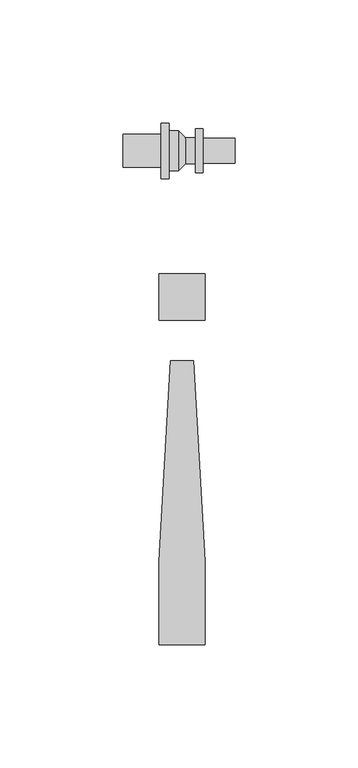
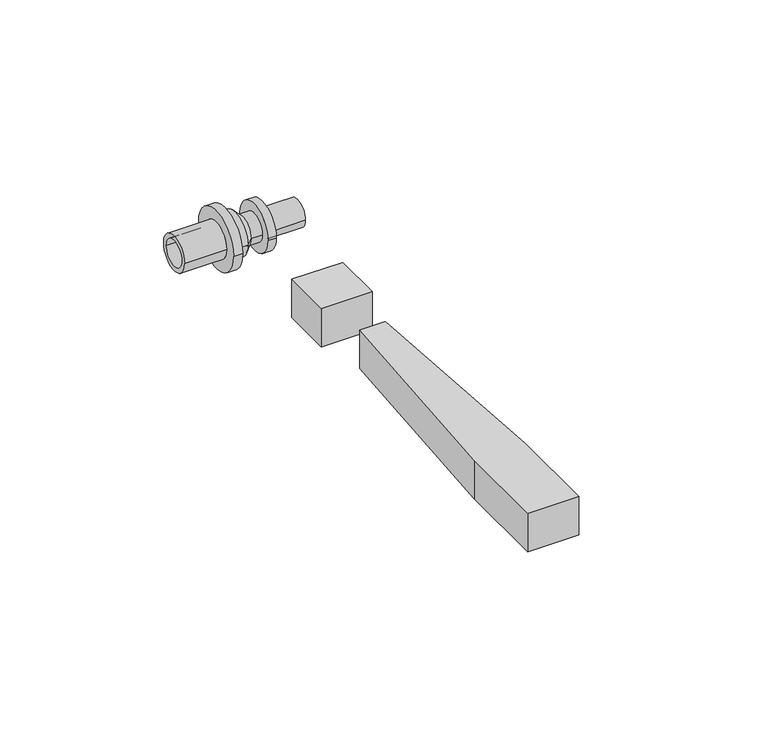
"""IFC4 building model written with IfcOpenShell, lengths in millimetres: pipe fitting geometry, RAUTITAN_Transition_LX : RTI LX Tr DN."""

import ifcopenshell
import ifcopenshell.guid

model = None  # the IFC model being written
_history = None  # IfcOwnerHistory: only IFC2X3 demands one
_inside = {}  # id of a spatial element -> (the spatial element, [elements in it])
_under = {}  # id of a project, library or spatial element -> (it, [spatial elements below it])
_declared = {}  # id of a project -> (the project, [libraries it declares])
_typed = {}  # id of a type object -> (the type object, [elements of that type])
_made_of = {}  # id of a material, layer set ... -> (it, [elements and type objects made of it])


def new_model(schema):
    """Start an empty IFC model of exactly this schema.

    Asked for "IFC4X3", IfcOpenShell would pick the latest addendum, in which some entities
    have other attributes; the version numbers below select the first issue.
    IFC2X3 requires an IfcOwnerHistory on every rooted entity: one is made here for all.
    """
    global model, _history
    if schema == "IFC4X3":
        model = ifcopenshell.file(schema_version=(4, 3, 0, 0))
    else:
        model = ifcopenshell.file(schema=schema)
    _inside.clear()
    _under.clear()
    _declared.clear()
    _typed.clear()
    _made_of.clear()
    _history = None
    if model.schema == "IFC2X3":
        org = make("IfcOrganization", Name="unknown")
        user = make(
            "IfcPersonAndOrganization",
            ThePerson=make("IfcPerson", FamilyName="unknown"),
            TheOrganization=org,
        )
        app = make(
            "IfcApplication",
            ApplicationDeveloper=org,
            Version="unknown",
            ApplicationFullName="unknown",
            ApplicationIdentifier="unknown",
        )
        _history = make(
            "IfcOwnerHistory",
            OwningUser=user,
            OwningApplication=app,
            ChangeAction="ADDED",
            CreationDate=0,
        )
    return model


def make(cls, **values):
    """One entity of the class cls with the attributes given. An attribute that is None is left unset."""
    return model.create_entity(
        cls, **{name: value for name, value in values.items() if value is not None}
    )


def rooted(cls, **values):
    """An entity with a GlobalId (a new one), such as an element, a storey or a relation."""
    return make(cls, GlobalId=ifcopenshell.guid.new(), OwnerHistory=_history, **values)


def si_unit(unit_type, name, prefix=None):
    """IfcSIUnit, for example si_unit("LENGTHUNIT", "METRE", prefix="MILLI")."""
    return make("IfcSIUnit", UnitType=unit_type, Prefix=prefix, Name=name)


def assignment(units):
    """IfcUnitAssignment: the units of a project."""
    return None if units is None else make("IfcUnitAssignment", Units=units)


def point(xyz):
    """IfcCartesianPoint."""
    return None if xyz is None else make("IfcCartesianPoint", Coordinates=xyz)


def direction(xyz):
    """IfcDirection."""
    return None if xyz is None else make("IfcDirection", DirectionRatios=xyz)


def frame(location, z_axis=None, x_axis=None):
    """IfcAxis2Placement3D, a coordinate frame: its origin and axes. An axis left out is left unset."""
    return make(
        "IfcAxis2Placement3D",
        Location=point(location),
        Axis=direction(z_axis),
        RefDirection=direction(x_axis),
    )


def origin():
    """The frame at (0, 0, 0) with its axes left unset."""
    return frame((0.0, 0.0, 0.0))


def origin_with_axes():
    """The frame at (0, 0, 0) with the z axis (0, 0, 1) and the x axis (1, 0, 0) written out."""
    return frame((0.0, 0.0, 0.0), z_axis=(0.0, 0.0, 1.0), x_axis=(1.0, 0.0, 0.0))


def place(relative_to, where):
    """IfcLocalPlacement: puts the frame where relative to a parent placement (None: the world)."""
    return make(
        "IfcLocalPlacement", PlacementRelTo=relative_to, RelativePlacement=where
    )


def context(
    kind, dimensions, precision=None, world=None, true_north=None, identifier=None
):
    """IfcGeometricRepresentationContext, for example the 3D "Model" context."""
    return make(
        "IfcGeometricRepresentationContext",
        ContextIdentifier=identifier,
        ContextType=kind,
        CoordinateSpaceDimension=dimensions,
        Precision=precision,
        WorldCoordinateSystem=world,
        TrueNorth=true_north,
    )


def project(units=None, contexts=None):
    """IfcProject with its units and contexts."""
    return rooted(
        "IfcProject",
        Name="project",
        RepresentationContexts=contexts,
        UnitsInContext=assignment(units),
    )


def spatial(cls, under=None, at=None, **own):
    """A site, building, storey or space (cls), placed at a placement, below another one or the project."""
    s = rooted(cls, ObjectPlacement=at, **own)
    if under is not None:
        _under.setdefault(under.id(), (under, []))[1].append(s)
    return s


def polyline(points):
    """IfcPolyline through the points."""
    return make("IfcPolyline", Points=[point(p) for p in points])


def circle_curve(where, radius):
    """IfcCircle in the frame where."""
    return make("IfcCircle", Position=where, Radius=radius)


def outline(outer, holes=None, kind="AREA"):
    """IfcArbitraryClosedProfileDef: a profile drawn as a closed curve; with holes, ...WithVoids."""
    if holes is None:
        return make("IfcArbitraryClosedProfileDef", ProfileType=kind, OuterCurve=outer)
    return make(
        "IfcArbitraryProfileDefWithVoids",
        ProfileType=kind,
        OuterCurve=outer,
        InnerCurves=holes,
    )


def extrude(swept, where, along, depth):
    """IfcExtrudedAreaSolid: the profile swept, set in the frame where, extruded along a direction by depth."""
    return make(
        "IfcExtrudedAreaSolid",
        SweptArea=swept,
        Position=where,
        ExtrudedDirection=direction(along),
        Depth=depth,
    )


def shape(context_of_items, identifier, shape_type, items):
    """IfcShapeRepresentation: the items that make up one representation, for example the "Body"."""
    return make(
        "IfcShapeRepresentation",
        ContextOfItems=context_of_items,
        RepresentationIdentifier=identifier,
        RepresentationType=shape_type,
        Items=items,
    )


def source(mapping_origin, context_of_items, identifier, shape_type, items):
    """IfcRepresentationMap: a shape defined once, which mapped items show again and again."""
    return make(
        "IfcRepresentationMap",
        MappingOrigin=mapping_origin,
        MappedRepresentation=shape(context_of_items, identifier, shape_type, items),
    )


def transform(
    local_origin,
    x_axis=None,
    y_axis=None,
    z_axis=None,
    scale=None,
    scale2=None,
    scale3=None,
    uniform=True,
):
    """IfcCartesianTransformationOperator3D, or its non-uniform kind. x_axis, y_axis, z_axis: its Axis1, 2, 3."""
    if uniform:
        return make(
            "IfcCartesianTransformationOperator3D",
            Axis1=direction(x_axis),
            Axis2=direction(y_axis),
            LocalOrigin=point(local_origin),
            Scale=scale,
            Axis3=direction(z_axis),
        )
    return make(
        "IfcCartesianTransformationOperator3DnonUniform",
        Axis1=direction(x_axis),
        Axis2=direction(y_axis),
        LocalOrigin=point(local_origin),
        Scale=scale,
        Axis3=direction(z_axis),
        Scale2=scale2,
        Scale3=scale3,
    )


def mapped(mapping_source, mapping_target):
    """IfcMappedItem: shows the shape of a source again, moved by a transform."""
    return make(
        "IfcMappedItem", MappingSource=mapping_source, MappingTarget=mapping_target
    )


def made_of(thing, what):
    """Note that an element or type object is made of a material, layer set ...; save() writes the relation."""
    if what is not None:
        _made_of.setdefault(what.id(), (what, []))[1].append(thing)
    return thing


def element(
    cls,
    number,
    at=None,
    inside=None,
    cuts=None,
    type_object=None,
    material=None,
    context=None,
    identifier="Body",
    shape_type=None,
    held_by="IfcProductDefinitionShape",
    body=None,
    shapes=None,
    **own,
):
    """One element of the class cls, such as IfcWall. Its Tag is "e" and its number.

    at: its placement. inside: the storey or other place that contains it. cuts: it is an
    opening in that element (IfcRelVoidsElement). A single representation is given by context,
    identifier, shape_type and body (its items); several are given by shapes. held_by: the class
    of the entity that holds the representations. save() writes the other relations.
    """
    e = rooted(cls, Tag="e%d" % number, ObjectPlacement=at, **own)
    if body is not None:
        shapes = [shape(context, identifier, shape_type, body)]
    if shapes is not None:
        e.Representation = make(held_by, Representations=shapes)
    if inside is not None:
        _inside.setdefault(inside.id(), (inside, []))[1].append(e)
    if cuts is not None:
        rooted(
            "IfcRelVoidsElement", RelatingBuildingElement=cuts, RelatedOpeningElement=e
        )
    if type_object is not None:
        _typed.setdefault(type_object.id(), (type_object, []))[1].append(e)
    return made_of(e, material)


def aggregate(whole, parts):
    """IfcRelAggregates: a whole, such as a stair, and the parts it consists of."""
    return rooted("IfcRelAggregates", RelatingObject=whole, RelatedObjects=parts)


def save(model, path):
    """Write the relations noted so far, then the file.

    IfcRelAggregates (storeys below a building ...), IfcRelContainedInSpatialStructure (elements
    in a storey), IfcRelDefinesByType, IfcRelAssociatesMaterial and IfcRelDeclares: one each for
    every whole, place, type object, material and project.
    """
    for whole, parts in _under.values():
        aggregate(whole, parts)
    for where, things in _inside.values():
        rooted(
            "IfcRelContainedInSpatialStructure",
            RelatedElements=things,
            RelatingStructure=where,
        )
    for kind, things in _typed.values():
        rooted("IfcRelDefinesByType", RelatedObjects=things, RelatingType=kind)
    for what, things in _made_of.values():
        rooted("IfcRelAssociatesMaterial", RelatedObjects=things, RelatingMaterial=what)
    for by, libraries in _declared.values():
        rooted("IfcRelDeclares", RelatingContext=by, RelatedDefinitions=libraries)
    model.write(path)


def plane_surface(at):
    """IfcPlane: the flat surface through the origin of the frame at, square to its z axis."""
    return make("IfcPlane", Position=at)


def cylinder_surface(at, radius):
    """IfcCylindricalSurface: all points at the distance radius from the z axis of the frame at."""
    return make("IfcCylindricalSurface", Position=at, Radius=radius)


def revolved_surface(curve, axis_point, axis_direction):
    """IfcSurfaceOfRevolution: the curve turned about the line through axis_point along axis_direction."""
    return make(
        "IfcSurfaceOfRevolution",
        SweptCurve=make("IfcArbitraryOpenProfileDef", ProfileType="CURVE", Curve=curve),
        AxisPosition=make("IfcAxis1Placement", Location=point(axis_point), Axis=direction(axis_direction)),
    )


def advanced_brep(points, edges, surfaces, faces):
    """IfcAdvancedBrep: a solid bounded by faces that lie on surfaces and meet in shared edges.

    An edge is (start, end): straight between two places in points (the first is 0);
    or (start, end, curve); or (start, end, curve, False) where it runs against its curve.
    A face is (place in surfaces, loops), or (place, loops, False) where it looks against
    its surface's normal. A loop lists edges by number (the first is 1), with a minus sign
    where the edge is run from its end to its start. The first loop is the outer one.
    """
    corners = [point(p) for p in points]
    vertices = [make("IfcVertexPoint", VertexGeometry=c) for c in corners]
    made = []
    for start, end, *more in edges:
        made.append(
            make(
                "IfcEdgeCurve",
                EdgeStart=vertices[start],
                EdgeEnd=vertices[end],
                EdgeGeometry=more[0] if more else make("IfcPolyline", Points=[corners[start], corners[end]]),
                SameSense=more[1] if len(more) > 1 else True,
            )
        )
    hull = []
    for where, loops, *sense in faces:
        bounds = []
        for j, loop in enumerate(loops):
            ring = [make("IfcOrientedEdge", EdgeElement=made[abs(k) - 1], Orientation=k > 0) for k in loop]
            bounds.append(
                make(
                    "IfcFaceOuterBound" if j == 0 else "IfcFaceBound",
                    Bound=make("IfcEdgeLoop", EdgeList=ring),
                    Orientation=True,
                )
            )
        hull.append(make("IfcAdvancedFace", Bounds=bounds, FaceSurface=surfaces[where], SameSense=sense[0] if sense else True))
    return make("IfcAdvancedBrep", Outer=make("IfcClosedShell", CfsFaces=hull))


def pipe_fitting_ce982b0c(model_context):
    return source(origin(), model_context, "Body", "SolidModel", [
        advanced_brep(
        [(-24.0, 4.95, 0.0), (-24.0, -4.95, 0.0), (-0.825, -4.95, 0.0), (-0.825, 4.95, 0.0), (-1.375, 8.05, 0.0), (-1.375, -8.05, 0.0), (-5.2, -8.05, 0.0), (-5.2, 8.05, 0.0), (1.375, 5.3, 0.0), (1.375, -5.3, 0.0), (5.5, 5.3, 0.0), (5.5, -5.3, 0.0), (8.5, 9.0, 0.0), (8.5, -9.0, 0.0), (5.5, -9.0, 0.0), (5.5, 9.0, 0.0), (21.5, 5.1, 0.0), (21.5, -5.1, 0.0), (8.5, -5.1, 0.0), (8.5, 5.1, 0.0), (0.825, 3.3, 0.0), (0.825, -3.3, 0.0), (21.5, -3.3, 0.0), (21.5, 3.3, 0.0), (-5.2, 11.25, 0.0), (-5.2, -11.25, 0.0), (-8.5, 6.75, 0.0), (-8.5, -6.75, 0.0), (-24.0, -6.75, 0.0), (-24.0, 6.75, 0.0), (-8.5, -11.25, 0.0), (-8.5, 11.25, 0.0)],
        [
            (0, 1, circle_curve(frame((-24.0, 0.0, 0.0), z_axis=(-1.0, 0.0, 0.0), x_axis=(0.0, -1.0, 0.0)), 4.95)),
            (1, 2),
            (2, 3, circle_curve(frame((-0.825, 0.0, 0.0), z_axis=(1.0, 0.0, 0.0), x_axis=(0.0, -1.0, 0.0)), 4.95)),
            (3, 0),
            (4, 5, circle_curve(frame((-1.375, 0.0, 0.0), z_axis=(-1.0, 0.0, 0.0), x_axis=(0.0, -1.0, 0.0)), 8.05)),
            (5, 6),
            (6, 7, circle_curve(frame((-5.2, 0.0, 0.0), z_axis=(1.0, 0.0, 0.0), x_axis=(0.0, -1.0, 0.0)), 8.05)),
            (7, 4),
            (8, 9, circle_curve(frame((1.375, 0.0, 0.0), z_axis=(-1.0, 0.0, 0.0), x_axis=(0.0, -1.0, 0.0)), 5.3)),
            (9, 5),
            (4, 8),
            (10, 11, circle_curve(frame((5.5, 0.0, 0.0), z_axis=(-1.0, 0.0, 0.0), x_axis=(0.0, -1.0, 0.0)), 5.3)),
            (11, 9),
            (8, 10),
            (12, 13, circle_curve(frame((8.5, 0.0, 0.0), z_axis=(-1.0, 0.0, 0.0), x_axis=(0.0, -1.0, 0.0)), 9.0)),
            (13, 14),
            (14, 15, circle_curve(frame((5.5, 0.0, 0.0), z_axis=(1.0, 0.0, 0.0), x_axis=(0.0, -1.0, 0.0)), 9.0)),
            (15, 12),
            (16, 17, circle_curve(frame((21.5, 0.0, 0.0), z_axis=(-1.0, 0.0, 0.0), x_axis=(0.0, -1.0, 0.0)), 5.1)),
            (17, 18),
            (18, 19, circle_curve(frame((8.5, 0.0, 0.0), z_axis=(1.0, 0.0, 0.0), x_axis=(0.0, -1.0, 0.0)), 5.1)),
            (19, 16),
            (20, 21, circle_curve(frame((0.825, 0.0, 0.0), z_axis=(-1.0, 0.0, 0.0), x_axis=(0.0, -1.0, 0.0)), 3.3)),
            (21, 22),
            (22, 23, circle_curve(frame((21.5, 0.0, 0.0), z_axis=(1.0, 0.0, 0.0), x_axis=(0.0, -1.0, 0.0)), 3.3)),
            (23, 20),
            (2, 21),
            (20, 3),
            (1, 0, circle_curve(frame((-24.0, 0.0, 0.0), z_axis=(-1.0, 0.0, 0.0), x_axis=(0.0, 1.0, 0.0)), 4.95)),
            (3, 2, circle_curve(frame((-0.825, 0.0, 0.0), z_axis=(1.0, 0.0, 0.0), x_axis=(0.0, 1.0, 0.0)), 4.95)),
            (24, 25, circle_curve(frame((-5.2, 0.0, 0.0), z_axis=(1.0, 0.0, 0.0), x_axis=(0.0, 1.0, 0.0)), 11.25)),
            (25, 24, circle_curve(frame((-5.2, 0.0, 0.0), z_axis=(1.0, 0.0, 0.0), x_axis=(0.0, -1.0, 0.0)), 11.25)),
            (6, 7, circle_curve(frame((-5.2, 0.0, 0.0), z_axis=(-1.0, 0.0, 0.0), x_axis=(0.0, 1.0, 0.0)), 8.05)),
            (5, 4, circle_curve(frame((-1.375, 0.0, 0.0), z_axis=(-1.0, 0.0, 0.0), x_axis=(0.0, 1.0, 0.0)), 8.05)),
            (9, 8, circle_curve(frame((1.375, 0.0, 0.0), z_axis=(-1.0, 0.0, 0.0), x_axis=(0.0, 1.0, 0.0)), 5.3)),
            (11, 10, circle_curve(frame((5.5, 0.0, 0.0), z_axis=(-1.0, 0.0, 0.0), x_axis=(0.0, 1.0, 0.0)), 5.3)),
            (14, 15, circle_curve(frame((5.5, 0.0, 0.0), z_axis=(-1.0, 0.0, 0.0), x_axis=(0.0, 1.0, 0.0)), 9.0)),
            (13, 12, circle_curve(frame((8.5, 0.0, 0.0), z_axis=(-1.0, 0.0, 0.0), x_axis=(0.0, 1.0, 0.0)), 9.0)),
            (18, 19, circle_curve(frame((8.5, 0.0, 0.0), z_axis=(-1.0, 0.0, 0.0), x_axis=(0.0, 1.0, 0.0)), 5.1)),
            (17, 16, circle_curve(frame((21.5, 0.0, 0.0), z_axis=(-1.0, 0.0, 0.0), x_axis=(0.0, 1.0, 0.0)), 5.1)),
            (22, 23, circle_curve(frame((21.5, 0.0, 0.0), z_axis=(-1.0, 0.0, 0.0), x_axis=(0.0, 1.0, 0.0)), 3.3)),
            (21, 20, circle_curve(frame((0.825, 0.0, 0.0), z_axis=(-1.0, 0.0, 0.0), x_axis=(0.0, 1.0, 0.0)), 3.3)),
            (26, 27, circle_curve(frame((-8.5, 0.0, 0.0), z_axis=(-1.0, 0.0, 0.0), x_axis=(0.0, -1.0, 0.0)), 6.75)),
            (27, 28),
            (28, 29, circle_curve(frame((-24.0, 0.0, 0.0), z_axis=(1.0, 0.0, 0.0), x_axis=(0.0, -1.0, 0.0)), 6.75)),
            (29, 26),
            (25, 30),
            (30, 31, circle_curve(frame((-8.5, 0.0, 0.0), z_axis=(1.0, 0.0, 0.0), x_axis=(0.0, -1.0, 0.0)), 11.25)),
            (31, 24),
            (28, 29, circle_curve(frame((-24.0, 0.0, 0.0), z_axis=(-1.0, 0.0, 0.0), x_axis=(0.0, 1.0, 0.0)), 6.75)),
            (27, 26, circle_curve(frame((-8.5, 0.0, 0.0), z_axis=(-1.0, 0.0, 0.0), x_axis=(0.0, 1.0, 0.0)), 6.75)),
            (30, 31, circle_curve(frame((-8.5, 0.0, 0.0), z_axis=(-1.0, 0.0, 0.0), x_axis=(0.0, 1.0, 0.0)), 11.25)),
        ],
        [
            revolved_surface(polyline([(-0.825, -4.95, 0.0), (-24.0, -4.95, 0.0)]), (0.0, 0.0, 0.0), (1.0, 0.0, 0.0)),
            cylinder_surface(frame((0.0, 0.0, 0.0), z_axis=(1.0, 0.0, 0.0), x_axis=(0.0, -1.0, 0.0)), 8.05),
            revolved_surface(polyline([(-1.375, -8.05, 0.0), (1.375, -5.3, 0.0)]), (0.0, 0.0, 0.0), (1.0, 0.0, 0.0)),
            cylinder_surface(frame((0.0, 0.0, 0.0), z_axis=(1.0, 0.0, 0.0), x_axis=(0.0, -1.0, 0.0)), 5.3),
            cylinder_surface(frame((0.0, 0.0, 0.0), z_axis=(1.0, 0.0, 0.0), x_axis=(0.0, -1.0, 0.0)), 9.0),
            cylinder_surface(frame((0.0, 0.0, 0.0), z_axis=(1.0, 0.0, 0.0), x_axis=(0.0, -1.0, 0.0)), 5.1),
            revolved_surface(polyline([(21.5, -3.3, 0.0), (0.825, -3.3, 0.0)]), (0.0, 0.0, 0.0), (1.0, 0.0, 0.0)),
            revolved_surface(polyline([(0.825, -3.3, 0.0), (-0.825, -4.95, 0.0)]), (0.0, 0.0, 0.0), (1.0, 0.0, 0.0)),
            revolved_surface(polyline([(-0.825, 4.95, 0.0), (-24.0, 4.95, 0.0)]), (0.0, 0.0, 0.0), (1.0, 0.0, 0.0)),
            plane_surface(frame((-5.2, 0.0, 0.0), z_axis=(1.0, 0.0, 0.0), x_axis=(0.0, 1.0, 0.0))),
            cylinder_surface(frame((0.0, 0.0, 0.0), z_axis=(1.0, 0.0, 0.0), x_axis=(0.0, 1.0, 0.0)), 8.05),
            revolved_surface(polyline([(-1.375, 8.05, 0.0), (1.375, 5.3, 0.0)]), (0.0, 0.0, 0.0), (1.0, 0.0, 0.0)),
            cylinder_surface(frame((0.0, 0.0, 0.0), z_axis=(1.0, 0.0, 0.0), x_axis=(0.0, 1.0, 0.0)), 5.3),
            plane_surface(frame((5.5, 0.0, 0.0), z_axis=(-1.0, 0.0, 0.0), x_axis=(0.0, 1.0, 0.0))),
            cylinder_surface(frame((0.0, 0.0, 0.0), z_axis=(1.0, 0.0, 0.0), x_axis=(0.0, 1.0, 0.0)), 9.0),
            plane_surface(frame((8.5, 0.0, 0.0), z_axis=(1.0, 0.0, 0.0), x_axis=(0.0, 1.0, 0.0))),
            cylinder_surface(frame((0.0, 0.0, 0.0), z_axis=(1.0, 0.0, 0.0), x_axis=(0.0, 1.0, 0.0)), 5.1),
            plane_surface(frame((21.5, 0.0, 0.0), z_axis=(1.0, 0.0, 0.0), x_axis=(0.0, 1.0, 0.0))),
            revolved_surface(polyline([(21.5, 3.3, 0.0), (0.825, 3.3, 0.0)]), (0.0, 0.0, 0.0), (1.0, 0.0, 0.0)),
            revolved_surface(polyline([(0.825, 3.3, 0.0), (-0.825, 4.95, 0.0)]), (0.0, 0.0, 0.0), (1.0, 0.0, 0.0)),
            cylinder_surface(frame((0.0, 0.0, 0.0), z_axis=(1.0, 0.0, 0.0), x_axis=(0.0, -1.0, 0.0)), 6.75),
            cylinder_surface(frame((0.0, 0.0, 0.0), z_axis=(1.0, 0.0, 0.0), x_axis=(0.0, -1.0, 0.0)), 11.25),
            plane_surface(frame((-24.0, 0.0, 0.0), z_axis=(-1.0, 0.0, 0.0), x_axis=(0.0, 1.0, 0.0))),
            cylinder_surface(frame((0.0, 0.0, 0.0), z_axis=(1.0, 0.0, 0.0), x_axis=(0.0, 1.0, 0.0)), 6.75),
            plane_surface(frame((-8.5, 0.0, 0.0), z_axis=(-1.0, 0.0, 0.0), x_axis=(0.0, 1.0, 0.0))),
            cylinder_surface(frame((0.0, 0.0, 0.0), z_axis=(1.0, 0.0, 0.0), x_axis=(0.0, 1.0, 0.0)), 11.25),
        ],
        [
            (0, [[1, 2, 3, 4]]),
            (1, [[5, 6, 7, 8]]),
            (2, [[9, 10, -5, 11]]),
            (3, [[12, 13, -9, 14]]),
            (4, [[15, 16, 17, 18]]),
            (5, [[19, 20, 21, 22]]),
            (6, [[23, 24, 25, 26]]),
            (7, [[-3, 27, -23, 28]]),
            (8, [[29, -4, 30, -2]]),
            (9, [[31, 32], [33, -7]]),
            (10, [[34, -8, -33, -6]]),
            (11, [[35, -11, -34, -10]]),
            (12, [[36, -14, -35, -13]]),
            (13, [[37, -17], [-36, -12]]),
            (14, [[38, -18, -37, -16]]),
            (15, [[-38, -15], [39, -21]]),
            (16, [[40, -22, -39, -20]]),
            (17, [[-40, -19], [41, -25]]),
            (18, [[42, -26, -41, -24]]),
            (19, [[-30, -28, -42, -27]]),
            (20, [[43, 44, 45, 46]]),
            (21, [[-32, 47, 48, 49]]),
            (22, [[50, -45], [-29, -1]]),
            (23, [[51, -46, -50, -44]]),
            (24, [[52, -48], [-51, -43]]),
            (25, [[-31, -49, -52, -47]]),
        ],
    ),
        extrude(outline(polyline([(4.7088895, -85.3166715), (9.4177791, -166.6553807), (9.4177791, -200.6844652), (-9.4177791, -200.6844652), (-9.4177791, -166.6553807), (-4.7088895, -85.3166715), (4.7088895, -85.3166715)])), origin_with_axes(), (0.0, 0.0, 1.0), 15.0),
        extrude(outline(polyline([(9.4177791, -50.0), (9.4177791, -68.8355582), (-9.4177791, -68.8355582), (-9.4177791, -50.0), (9.4177791, -50.0)])), origin_with_axes(), (0.0, 0.0, 1.0), 15.0),
    ])


if __name__ == "__main__":
    model = new_model("IFC4")
    model_context = context("Model", 3, world=origin())
    ifc_project = project(units=[si_unit("LENGTHUNIT", "METRE", prefix="MILLI")], contexts=[model_context])
    site = spatial("IfcSite", under=ifc_project)
    building = spatial("IfcBuilding", under=site)
    placement = place(None, origin())
    pipe_fitting_shape = pipe_fitting_ce982b0c(model_context)
    element("IfcPipeFitting", 1, ObjectType="RAUTITAN_Transition_LX : RTI LX Tr DN", at=placement, inside=building, context=model_context, shape_type="MappedRepresentation", body=[
        mapped(pipe_fitting_shape, transform((0.0, 0.0, 0.0), x_axis=(1.0, 0.0, 0.0), y_axis=(0.0, 1.0, 0.0), z_axis=(0.0, 0.0, 1.0))),
    ])
    save(model, "model.ifc")
